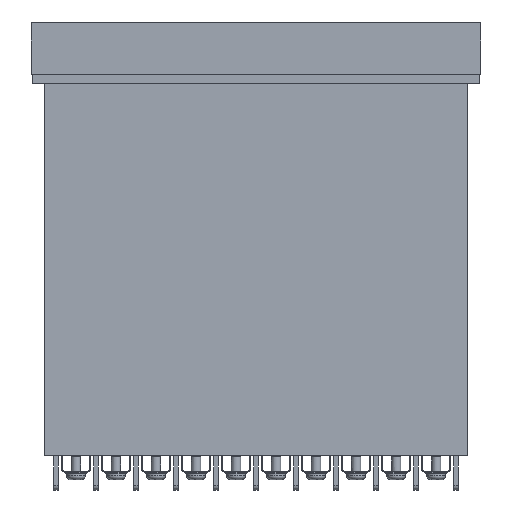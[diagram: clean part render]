
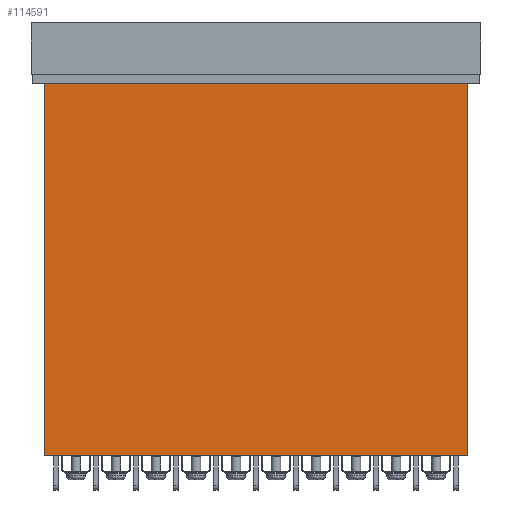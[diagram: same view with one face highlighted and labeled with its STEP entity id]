
A CAD part, front view. The second image highlights one B-rep face of the part: STEP entity #114591.
In plain terms, the highlighted planar face has unit normal (0, -1, 0).
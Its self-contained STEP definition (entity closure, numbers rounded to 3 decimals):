
#3249 = VERTEX_POINT ( 'NONE', #5529 ) ;
#5529 = CARTESIAN_POINT ( 'NONE',  ( -9.035, 15.603, -7.969 ) ) ;
#5578 = VECTOR ( 'NONE', #19080, 1000. ) ;
#8006 = LINE ( 'NONE', #166720, #36222 ) ;
#19080 = DIRECTION ( 'NONE',  ( 0., 0., 1. ) ) ;
#22006 = ORIENTED_EDGE ( 'NONE', *, *, #28693, .F. ) ;
#22485 = EDGE_CURVE ( 'NONE', #53217, #3249, #8006, .T. ) ;
#24644 = CARTESIAN_POINT ( 'NONE',  ( 81.965, 15.603, -87.969 ) ) ;
#25132 = FACE_OUTER_BOUND ( 'NONE', #123413, .T. ) ;
#27188 = DIRECTION ( 'NONE',  ( -1., 0., 0. ) ) ;
#28066 = VECTOR ( 'NONE', #27188, 1000. ) ;
#28693 = EDGE_CURVE ( 'NONE', #106514, #3249, #107293, .T. ) ;
#33853 = DIRECTION ( 'NONE',  ( -1., 0., 0. ) ) ;
#36222 = VECTOR ( 'NONE', #33853, 1000. ) ;
#48041 = ORIENTED_EDGE ( 'NONE', *, *, #116944, .T. ) ;
#48175 = CARTESIAN_POINT ( 'NONE',  ( 81.965, 15.603, -87.969 ) ) ;
#53217 = VERTEX_POINT ( 'NONE', #123577 ) ;
#73430 = CARTESIAN_POINT ( 'NONE',  ( 81.965, 15.603, -87.969 ) ) ;
#76634 = VECTOR ( 'NONE', #159663, 1000. ) ;
#84240 = LINE ( 'NONE', #48175, #5578 ) ;
#95240 = EDGE_CURVE ( 'NONE', #154764, #106514, #156740, .T. ) ;
#106514 = VERTEX_POINT ( 'NONE', #140695 ) ;
#107293 = LINE ( 'NONE', #149295, #76634 ) ;
#114591 = ADVANCED_FACE ( 'NONE', ( #25132 ), #116059, .F. ) ;
#116059 = PLANE ( 'NONE',  #161725 ) ;
#116944 = EDGE_CURVE ( 'NONE', #154764, #53217, #84240, .T. ) ;
#123413 = EDGE_LOOP ( 'NONE', ( #162798, #22006, #166339, #48041 ) ) ;
#123577 = CARTESIAN_POINT ( 'NONE',  ( 81.965, 15.603, -7.969 ) ) ;
#129814 = DIRECTION ( 'NONE',  ( 0., 1., 0. ) ) ;
#140695 = CARTESIAN_POINT ( 'NONE',  ( -9.035, 15.603, -87.969 ) ) ;
#142653 = DIRECTION ( 'NONE',  ( 1., 0., 0. ) ) ;
#149295 = CARTESIAN_POINT ( 'NONE',  ( -9.035, 15.603, -87.969 ) ) ;
#154764 = VERTEX_POINT ( 'NONE', #159614 ) ;
#156740 = LINE ( 'NONE', #24644, #28066 ) ;
#159614 = CARTESIAN_POINT ( 'NONE',  ( 81.965, 15.603, -87.969 ) ) ;
#159663 = DIRECTION ( 'NONE',  ( 0., 0., 1. ) ) ;
#161725 = AXIS2_PLACEMENT_3D ( 'NONE', #73430, #129814, #142653 ) ;
#162798 = ORIENTED_EDGE ( 'NONE', *, *, #22485, .T. ) ;
#166339 = ORIENTED_EDGE ( 'NONE', *, *, #95240, .F. ) ;
#166720 = CARTESIAN_POINT ( 'NONE',  ( 81.965, 15.603, -7.969 ) ) ;
